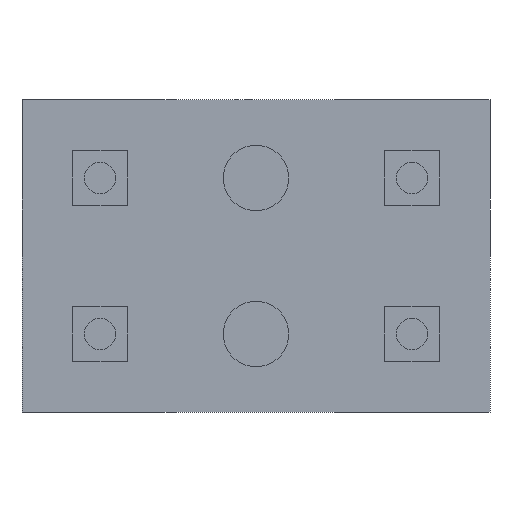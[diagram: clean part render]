
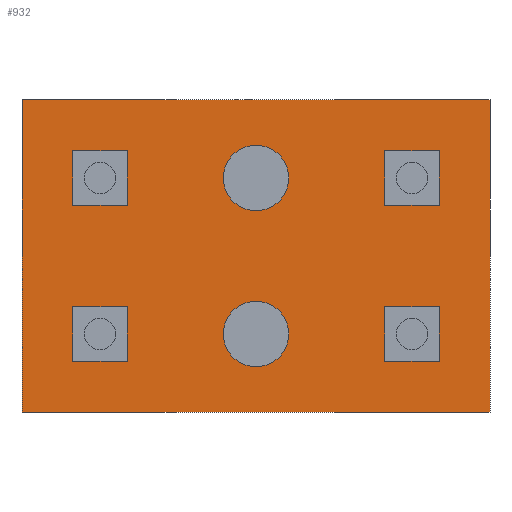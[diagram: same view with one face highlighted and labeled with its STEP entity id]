
A CAD part, front view. The second image highlights one B-rep face of the part: STEP entity #932.
In plain terms, the highlighted planar face has unit normal (0, -1, 0).
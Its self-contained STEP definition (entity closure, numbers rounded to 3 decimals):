
#123=CARTESIAN_POINT('',(-44.5,0.0,-20.));
#124=VERTEX_POINT('',#123);
#125=CARTESIAN_POINT('',(-40.,0.0,-20.));
#126=DIRECTION('',(0.0,1.0,0.0));
#127=DIRECTION('',(-1.0,0.0,0.0));
#128=AXIS2_PLACEMENT_3D('',#125,#126,#127);
#129=CIRCLE('',#128,4.5);
#130=EDGE_CURVE('',#124,#124,#129,.T.);
#172=CARTESIAN_POINT('',(44.5,0.0,-20.));
#173=VERTEX_POINT('',#172);
#174=CARTESIAN_POINT('',(40.,0.0,-20.));
#175=DIRECTION('',(0.0,1.0,0.0));
#176=DIRECTION('',(1.0,0.0,0.0));
#177=AXIS2_PLACEMENT_3D('',#174,#175,#176);
#178=CIRCLE('',#177,4.5);
#179=EDGE_CURVE('',#173,#173,#178,.T.);
#210=CARTESIAN_POINT('',(8.4,0.0,-20.));
#211=VERTEX_POINT('',#210);
#212=CARTESIAN_POINT('',(0.0,0.0,-20.));
#213=DIRECTION('',(0.0,1.0,0.0));
#214=DIRECTION('',(1.0,0.0,0.0));
#215=AXIS2_PLACEMENT_3D('',#212,#213,#214);
#216=CIRCLE('',#215,8.4);
#217=EDGE_CURVE('',#211,#211,#216,.T.);
#290=CARTESIAN_POINT('',(-44.5,0.0,20.));
#291=VERTEX_POINT('',#290);
#292=CARTESIAN_POINT('',(-40.,0.0,20.));
#293=DIRECTION('',(0.0,1.0,0.0));
#294=DIRECTION('',(-1.0,0.0,0.0));
#295=AXIS2_PLACEMENT_3D('',#292,#293,#294);
#296=CIRCLE('',#295,4.5);
#297=EDGE_CURVE('',#291,#291,#296,.T.);
#339=CARTESIAN_POINT('',(44.5,0.0,20.));
#340=VERTEX_POINT('',#339);
#341=CARTESIAN_POINT('',(40.,0.0,20.));
#342=DIRECTION('',(0.0,1.0,0.0));
#343=DIRECTION('',(1.0,0.0,0.0));
#344=AXIS2_PLACEMENT_3D('',#341,#342,#343);
#345=CIRCLE('',#344,4.5);
#346=EDGE_CURVE('',#340,#340,#345,.T.);
#377=CARTESIAN_POINT('',(8.4,0.0,20.));
#378=VERTEX_POINT('',#377);
#379=CARTESIAN_POINT('',(0.0,0.0,20.));
#380=DIRECTION('',(0.0,1.0,0.0));
#381=DIRECTION('',(1.0,0.0,0.0));
#382=AXIS2_PLACEMENT_3D('',#379,#380,#381);
#383=CIRCLE('',#382,8.4);
#384=EDGE_CURVE('',#378,#378,#383,.T.);
#446=CARTESIAN_POINT('',(60.,0.0,-40.));
#447=VERTEX_POINT('',#446);
#456=CARTESIAN_POINT('',(-60.,0.0,-40.));
#457=VERTEX_POINT('',#456);
#458=CARTESIAN_POINT('',(-60.,0.0,-40.));
#459=DIRECTION('',(1.0,0.0,0.0));
#460=VECTOR('',#459,120.);
#461=LINE('',#458,#460);
#462=EDGE_CURVE('',#457,#447,#461,.T.);
#566=CARTESIAN_POINT('',(-60.,0.0,40.));
#567=VERTEX_POINT('',#566);
#583=CARTESIAN_POINT('',(-60.,0.0,40.));
#584=DIRECTION('',(0.0,0.0,-1.0));
#585=VECTOR('',#584,80.);
#586=LINE('',#583,#585);
#587=EDGE_CURVE('',#567,#457,#586,.T.);
#879=CARTESIAN_POINT('',(60.,0.0,40.));
#880=VERTEX_POINT('',#879);
#887=CARTESIAN_POINT('',(60.,0.0,-40.));
#888=DIRECTION('',(0.0,0.0,1.0));
#889=VECTOR('',#888,80.);
#890=LINE('',#887,#889);
#891=EDGE_CURVE('',#447,#880,#890,.T.);
#898=CARTESIAN_POINT('',(60.,0.0,0.0));
#899=DIRECTION('',(0.0,-1.0,0.0));
#900=DIRECTION('',(0.0,0.0,-1.0));
#901=AXIS2_PLACEMENT_3D('',#898,#899,#900);
#902=PLANE('',#901);
#903=CARTESIAN_POINT('',(60.,0.0,40.));
#904=DIRECTION('',(-1.0,0.0,0.0));
#905=VECTOR('',#904,120.);
#906=LINE('',#903,#905);
#907=EDGE_CURVE('',#880,#567,#906,.T.);
#908=ORIENTED_EDGE('',*,*,#907,.T.);
#909=ORIENTED_EDGE('',*,*,#587,.T.);
#910=ORIENTED_EDGE('',*,*,#462,.T.);
#911=ORIENTED_EDGE('',*,*,#891,.T.);
#912=EDGE_LOOP('',(#908,#909,#910,#911));
#913=FACE_OUTER_BOUND('',#912,.T.);
#914=ORIENTED_EDGE('',*,*,#130,.T.);
#915=EDGE_LOOP('',(#914));
#916=FACE_BOUND('',#915,.T.);
#917=ORIENTED_EDGE('',*,*,#179,.T.);
#918=EDGE_LOOP('',(#917));
#919=FACE_BOUND('',#918,.T.);
#920=ORIENTED_EDGE('',*,*,#217,.T.);
#921=EDGE_LOOP('',(#920));
#922=FACE_BOUND('',#921,.T.);
#923=ORIENTED_EDGE('',*,*,#297,.T.);
#924=EDGE_LOOP('',(#923));
#925=FACE_BOUND('',#924,.T.);
#926=ORIENTED_EDGE('',*,*,#346,.T.);
#927=EDGE_LOOP('',(#926));
#928=FACE_BOUND('',#927,.T.);
#929=ORIENTED_EDGE('',*,*,#384,.T.);
#930=EDGE_LOOP('',(#929));
#931=FACE_BOUND('',#930,.T.);
#932=ADVANCED_FACE('',(#913,#916,#919,#922,#925,#928,#931),#902,.T.);
